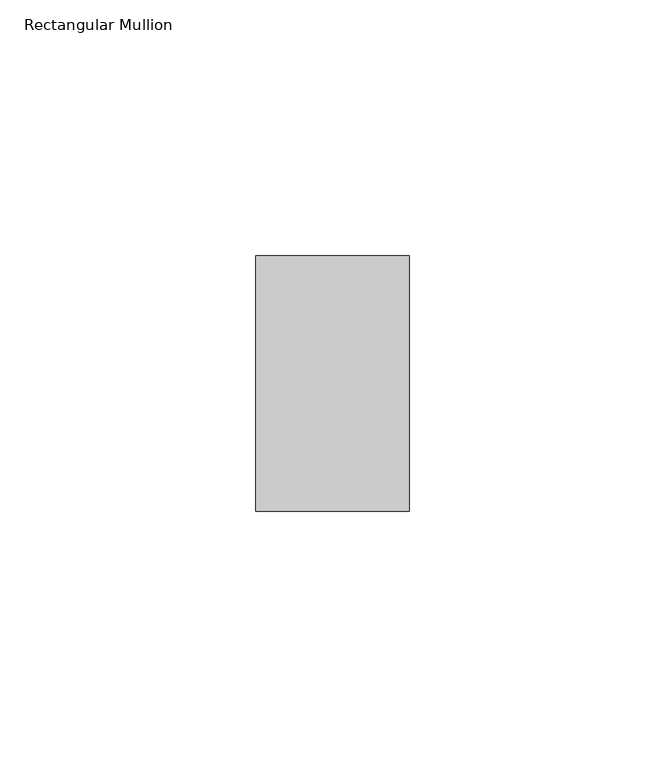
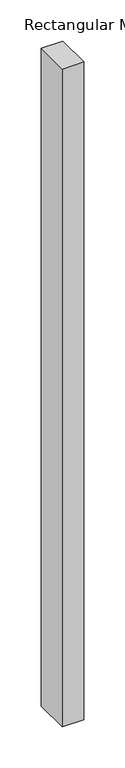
"""IFC4 building model written with IfcOpenShell, lengths in millimetres: member geometry, Rectangular Mullion : ARQ_TV_MULL_50x30mm."""

import ifcopenshell
import ifcopenshell.guid

model = None  # the IFC model being written
_history = None  # IfcOwnerHistory: only IFC2X3 demands one
_inside = {}  # id of a spatial element -> (the spatial element, [elements in it])
_under = {}  # id of a project, library or spatial element -> (it, [spatial elements below it])
_declared = {}  # id of a project -> (the project, [libraries it declares])
_typed = {}  # id of a type object -> (the type object, [elements of that type])
_made_of = {}  # id of a material, layer set ... -> (it, [elements and type objects made of it])


def new_model(schema):
    """Start an empty IFC model of exactly this schema.

    Asked for "IFC4X3", IfcOpenShell would pick the latest addendum, in which some entities
    have other attributes; the version numbers below select the first issue.
    IFC2X3 requires an IfcOwnerHistory on every rooted entity: one is made here for all.
    """
    global model, _history
    if schema == "IFC4X3":
        model = ifcopenshell.file(schema_version=(4, 3, 0, 0))
    else:
        model = ifcopenshell.file(schema=schema)
    _inside.clear()
    _under.clear()
    _declared.clear()
    _typed.clear()
    _made_of.clear()
    _history = None
    if model.schema == "IFC2X3":
        org = make("IfcOrganization", Name="unknown")
        user = make(
            "IfcPersonAndOrganization",
            ThePerson=make("IfcPerson", FamilyName="unknown"),
            TheOrganization=org,
        )
        app = make(
            "IfcApplication",
            ApplicationDeveloper=org,
            Version="unknown",
            ApplicationFullName="unknown",
            ApplicationIdentifier="unknown",
        )
        _history = make(
            "IfcOwnerHistory",
            OwningUser=user,
            OwningApplication=app,
            ChangeAction="ADDED",
            CreationDate=0,
        )
    return model


def make(cls, **values):
    """One entity of the class cls with the attributes given. An attribute that is None is left unset."""
    return model.create_entity(
        cls, **{name: value for name, value in values.items() if value is not None}
    )


def rooted(cls, **values):
    """An entity with a GlobalId (a new one), such as an element, a storey or a relation."""
    return make(cls, GlobalId=ifcopenshell.guid.new(), OwnerHistory=_history, **values)


def si_unit(unit_type, name, prefix=None):
    """IfcSIUnit, for example si_unit("LENGTHUNIT", "METRE", prefix="MILLI")."""
    return make("IfcSIUnit", UnitType=unit_type, Prefix=prefix, Name=name)


def assignment(units):
    """IfcUnitAssignment: the units of a project."""
    return None if units is None else make("IfcUnitAssignment", Units=units)


def point(xyz):
    """IfcCartesianPoint."""
    return None if xyz is None else make("IfcCartesianPoint", Coordinates=xyz)


def direction(xyz):
    """IfcDirection."""
    return None if xyz is None else make("IfcDirection", DirectionRatios=xyz)


def frame(location, z_axis=None, x_axis=None):
    """IfcAxis2Placement3D, a coordinate frame: its origin and axes. An axis left out is left unset."""
    return make(
        "IfcAxis2Placement3D",
        Location=point(location),
        Axis=direction(z_axis),
        RefDirection=direction(x_axis),
    )


def origin():
    """The frame at (0, 0, 0) with its axes left unset."""
    return frame((0.0, 0.0, 0.0))


def place(relative_to, where):
    """IfcLocalPlacement: puts the frame where relative to a parent placement (None: the world)."""
    return make(
        "IfcLocalPlacement", PlacementRelTo=relative_to, RelativePlacement=where
    )


def context(
    kind, dimensions, precision=None, world=None, true_north=None, identifier=None
):
    """IfcGeometricRepresentationContext, for example the 3D "Model" context."""
    return make(
        "IfcGeometricRepresentationContext",
        ContextIdentifier=identifier,
        ContextType=kind,
        CoordinateSpaceDimension=dimensions,
        Precision=precision,
        WorldCoordinateSystem=world,
        TrueNorth=true_north,
    )


def project(units=None, contexts=None):
    """IfcProject with its units and contexts."""
    return rooted(
        "IfcProject",
        Name="project",
        RepresentationContexts=contexts,
        UnitsInContext=assignment(units),
    )


def spatial(cls, under=None, at=None, **own):
    """A site, building, storey or space (cls), placed at a placement, below another one or the project."""
    s = rooted(cls, ObjectPlacement=at, **own)
    if under is not None:
        _under.setdefault(under.id(), (under, []))[1].append(s)
    return s


def polyline(points):
    """IfcPolyline through the points."""
    return make("IfcPolyline", Points=[point(p) for p in points])


def outline(outer, holes=None, kind="AREA"):
    """IfcArbitraryClosedProfileDef: a profile drawn as a closed curve; with holes, ...WithVoids."""
    if holes is None:
        return make("IfcArbitraryClosedProfileDef", ProfileType=kind, OuterCurve=outer)
    return make(
        "IfcArbitraryProfileDefWithVoids",
        ProfileType=kind,
        OuterCurve=outer,
        InnerCurves=holes,
    )


def extrude(swept, where, along, depth):
    """IfcExtrudedAreaSolid: the profile swept, set in the frame where, extruded along a direction by depth."""
    return make(
        "IfcExtrudedAreaSolid",
        SweptArea=swept,
        Position=where,
        ExtrudedDirection=direction(along),
        Depth=depth,
    )


def shape(context_of_items, identifier, shape_type, items):
    """IfcShapeRepresentation: the items that make up one representation, for example the "Body"."""
    return make(
        "IfcShapeRepresentation",
        ContextOfItems=context_of_items,
        RepresentationIdentifier=identifier,
        RepresentationType=shape_type,
        Items=items,
    )


def source(mapping_origin, context_of_items, identifier, shape_type, items):
    """IfcRepresentationMap: a shape defined once, which mapped items show again and again."""
    return make(
        "IfcRepresentationMap",
        MappingOrigin=mapping_origin,
        MappedRepresentation=shape(context_of_items, identifier, shape_type, items),
    )


def transform(
    local_origin,
    x_axis=None,
    y_axis=None,
    z_axis=None,
    scale=None,
    scale2=None,
    scale3=None,
    uniform=True,
):
    """IfcCartesianTransformationOperator3D, or its non-uniform kind. x_axis, y_axis, z_axis: its Axis1, 2, 3."""
    if uniform:
        return make(
            "IfcCartesianTransformationOperator3D",
            Axis1=direction(x_axis),
            Axis2=direction(y_axis),
            LocalOrigin=point(local_origin),
            Scale=scale,
            Axis3=direction(z_axis),
        )
    return make(
        "IfcCartesianTransformationOperator3DnonUniform",
        Axis1=direction(x_axis),
        Axis2=direction(y_axis),
        LocalOrigin=point(local_origin),
        Scale=scale,
        Axis3=direction(z_axis),
        Scale2=scale2,
        Scale3=scale3,
    )


def mapped(mapping_source, mapping_target):
    """IfcMappedItem: shows the shape of a source again, moved by a transform."""
    return make(
        "IfcMappedItem", MappingSource=mapping_source, MappingTarget=mapping_target
    )


def made_of(thing, what):
    """Note that an element or type object is made of a material, layer set ...; save() writes the relation."""
    if what is not None:
        _made_of.setdefault(what.id(), (what, []))[1].append(thing)
    return thing


def element(
    cls,
    number,
    at=None,
    inside=None,
    cuts=None,
    type_object=None,
    material=None,
    context=None,
    identifier="Body",
    shape_type=None,
    held_by="IfcProductDefinitionShape",
    body=None,
    shapes=None,
    **own,
):
    """One element of the class cls, such as IfcWall. Its Tag is "e" and its number.

    at: its placement. inside: the storey or other place that contains it. cuts: it is an
    opening in that element (IfcRelVoidsElement). A single representation is given by context,
    identifier, shape_type and body (its items); several are given by shapes. held_by: the class
    of the entity that holds the representations. save() writes the other relations.
    """
    e = rooted(cls, Tag="e%d" % number, ObjectPlacement=at, **own)
    if body is not None:
        shapes = [shape(context, identifier, shape_type, body)]
    if shapes is not None:
        e.Representation = make(held_by, Representations=shapes)
    if inside is not None:
        _inside.setdefault(inside.id(), (inside, []))[1].append(e)
    if cuts is not None:
        rooted(
            "IfcRelVoidsElement", RelatingBuildingElement=cuts, RelatedOpeningElement=e
        )
    if type_object is not None:
        _typed.setdefault(type_object.id(), (type_object, []))[1].append(e)
    return made_of(e, material)


def aggregate(whole, parts):
    """IfcRelAggregates: a whole, such as a stair, and the parts it consists of."""
    return rooted("IfcRelAggregates", RelatingObject=whole, RelatedObjects=parts)


def save(model, path):
    """Write the relations noted so far, then the file.

    IfcRelAggregates (storeys below a building ...), IfcRelContainedInSpatialStructure (elements
    in a storey), IfcRelDefinesByType, IfcRelAssociatesMaterial and IfcRelDeclares: one each for
    every whole, place, type object, material and project.
    """
    for whole, parts in _under.values():
        aggregate(whole, parts)
    for where, things in _inside.values():
        rooted(
            "IfcRelContainedInSpatialStructure",
            RelatedElements=things,
            RelatingStructure=where,
        )
    for kind, things in _typed.values():
        rooted("IfcRelDefinesByType", RelatedObjects=things, RelatingType=kind)
    for what, things in _made_of.values():
        rooted("IfcRelAssociatesMaterial", RelatedObjects=things, RelatingMaterial=what)
    for by, libraries in _declared.values():
        rooted("IfcRelDeclares", RelatingContext=by, RelatedDefinitions=libraries)
    model.write(path)


def rectangular_mullion_6697ab7a(model_context):
    return source(origin(), model_context, "Body", "SweptSolid", [
        extrude(outline(polyline([(0.0, 25.0), (0.0, -25.0), (-30.0, -25.0), (-30.0, 25.0), (0.0, 25.0)])), frame((0.0, 0.0, -970.0000003), z_axis=(0.0, 0.0, 1.0), x_axis=(1.0, 0.0, 0.0)), (0.0, 0.0, 1.0), 970.0000003),
    ])


if __name__ == "__main__":
    model = new_model("IFC4")
    model_context = context("Model", 3, world=origin())
    ifc_project = project(units=[si_unit("LENGTHUNIT", "METRE", prefix="MILLI")], contexts=[model_context])
    site = spatial("IfcSite", under=ifc_project)
    building = spatial("IfcBuilding", under=site)
    placement = place(None, origin())
    rectangular_mullion_shape = rectangular_mullion_6697ab7a(model_context)
    element("IfcMember", 1, ObjectType="Rectangular Mullion : ARQ_TV_MULL_50x30mm", at=placement, inside=building, context=model_context, shape_type="MappedRepresentation", body=[
        mapped(rectangular_mullion_shape, transform((0.0, 0.0, 0.0), x_axis=(1.0, 0.0, 0.0), y_axis=(0.0, 1.0, 0.0), z_axis=(0.0, 0.0, 1.0))),
    ])
    save(model, "model.ifc")
